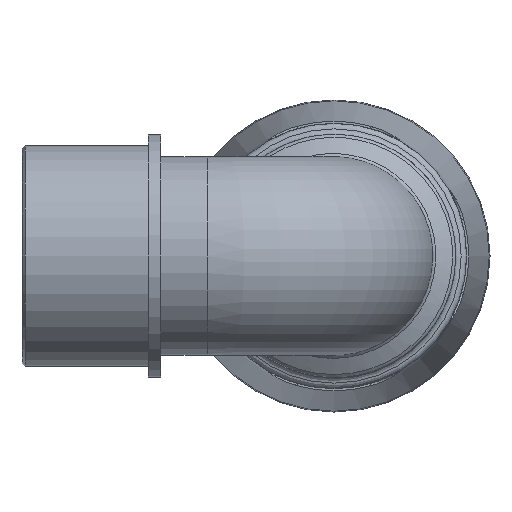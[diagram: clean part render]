
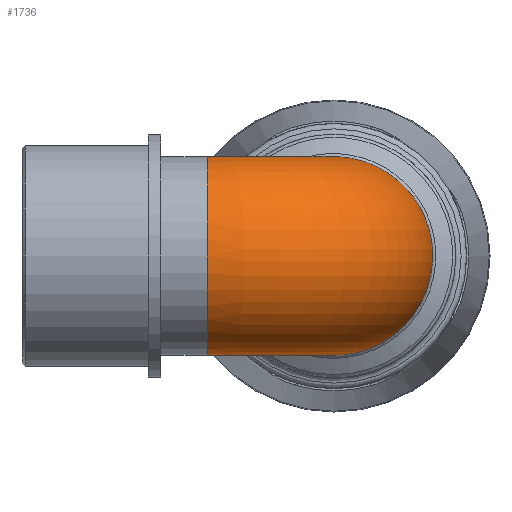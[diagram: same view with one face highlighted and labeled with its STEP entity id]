
A CAD part, left-side view. The second image highlights one B-rep face of the part: STEP entity #1736.
In plain terms, the highlighted toroidal (fillet/blend) face has major radius 19.093 mm and minor radius 14.962 mm.
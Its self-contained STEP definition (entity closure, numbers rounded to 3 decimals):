
#80=TOROIDAL_SURFACE('',#1855,19.093,14.962);
#90=FACE_BOUND('',#436,.T.);
#319=FACE_OUTER_BOUND('',#435,.T.);
#435=EDGE_LOOP('',(#1149));
#436=EDGE_LOOP('',(#1150));
#557=B_SPLINE_CURVE_WITH_KNOTS('',3,(#2640,#2641,#2642,#2643,#2644,#2645,
#2646,#2647,#2648,#2649,#2650,#2651,#2652,#2653,#2654,#2655,#2656,#2657),
 .UNSPECIFIED.,.T.,.F.,(4,1,1,1,1,1,1,1,1,1,1,1,1,1,1,4),(-3.142,
-2.693,-2.244,-1.795,-1.346,
-0.748,-0.449,-0.15,0.449,
0.898,1.346,1.795,2.244,2.693,
2.917,3.142),.UNSPECIFIED.);
#631=CIRCLE('',#1850,14.962);
#721=VERTEX_POINT('',#2638);
#728=VERTEX_POINT('',#2880);
#882=EDGE_CURVE('',#721,#721,#557,.T.);
#892=EDGE_CURVE('',#728,#728,#631,.T.);
#1149=ORIENTED_EDGE('',*,*,#882,.F.);
#1150=ORIENTED_EDGE('',*,*,#892,.T.);
#1736=ADVANCED_FACE('',(#319,#90),#80,.T.);
#1850=AXIS2_PLACEMENT_3D('',#2881,#2066,#2067);
#1855=AXIS2_PLACEMENT_3D('',#2889,#2076,#2077);
#2066=DIRECTION('center_axis',(0.,-1.,0.));
#2067=DIRECTION('ref_axis',(-1.,0.,0.));
#2076=DIRECTION('center_axis',(0.,0.,1.));
#2077=DIRECTION('ref_axis',(1.,0.,0.));
#2638=CARTESIAN_POINT('',(16.28,16.068,0.));
#2640=CARTESIAN_POINT('Ctrl Pts',(16.279,16.068,0.003));
#2641=CARTESIAN_POINT('Ctrl Pts',(16.28,16.069,2.257));
#2642=CARTESIAN_POINT('Ctrl Pts',(16.352,14.571,6.718));
#2643=CARTESIAN_POINT('Ctrl Pts',(16.496,10.061,12.01));
#2644=CARTESIAN_POINT('Ctrl Pts',(16.558,3.8,15.045));
#2645=CARTESIAN_POINT('Ctrl Pts',(16.598,-3.93,15.139));
#2646=CARTESIAN_POINT('Ctrl Pts',(16.611,-10.107,11.668));
#2647=CARTESIAN_POINT('Ctrl Pts',(16.618,-13.561,6.644));
#2648=CARTESIAN_POINT('Ctrl Pts',(16.621,-15.396,0.832));
#2649=CARTESIAN_POINT('Ctrl Pts',(16.62,-14.324,-6.177));
#2650=CARTESIAN_POINT('Ctrl Pts',(16.61,-9.448,-12.177));
#2651=CARTESIAN_POINT('Ctrl Pts',(16.594,-3.156,-15.124));
#2652=CARTESIAN_POINT('Ctrl Pts',(16.559,3.801,-15.045));
#2653=CARTESIAN_POINT('Ctrl Pts',(16.495,10.058,-12.016));
#2654=CARTESIAN_POINT('Ctrl Pts',(16.379,13.824,-7.587));
#2655=CARTESIAN_POINT('Ctrl Pts',(16.294,15.691,-3.391));
#2656=CARTESIAN_POINT('Ctrl Pts',(16.278,16.067,-1.124));
#2657=CARTESIAN_POINT('Ctrl Pts',(16.279,16.068,0.003));
#2880=CARTESIAN_POINT('',(14.962,19.093,0.));
#2881=CARTESIAN_POINT('Origin',(0.,19.093,0.));
#2889=CARTESIAN_POINT('Origin',(19.093,19.093,0.));
